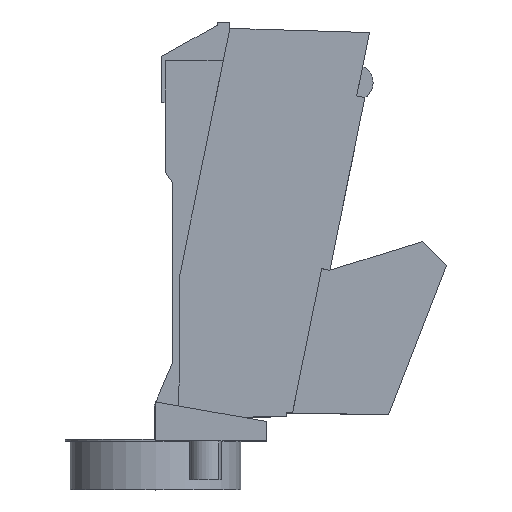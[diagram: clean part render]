
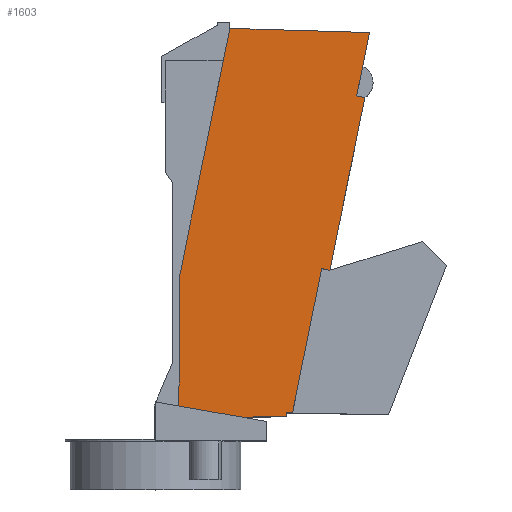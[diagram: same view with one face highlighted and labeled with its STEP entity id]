
A CAD part, top view. The second image highlights one B-rep face of the part: STEP entity #1603.
In plain terms, the highlighted planar face has unit normal (0, 0, 1).
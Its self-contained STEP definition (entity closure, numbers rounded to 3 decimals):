
#5 = LINE ( 'NONE', #997, #1831 ) ;
#12 = CARTESIAN_POINT ( 'NONE',  ( 7.215, -38.5, 12.1 ) ) ;
#21 = EDGE_CURVE ( 'NONE', #1769, #1306, #41, .T. ) ;
#28 = DIRECTION ( 'NONE',  ( 0., 0., -1. ) ) ;
#36 = EDGE_CURVE ( 'NONE', #1349, #164, #787, .T. ) ;
#41 = LINE ( 'NONE', #475, #1864 ) ;
#64 = VERTEX_POINT ( 'NONE', #987 ) ;
#110 = EDGE_CURVE ( 'NONE', #1194, #1349, #1613, .T. ) ;
#131 = CARTESIAN_POINT ( 'NONE',  ( 46.47, 45.41, 12.1 ) ) ;
#164 = VERTEX_POINT ( 'NONE', #1422 ) ;
#167 = EDGE_CURVE ( 'NONE', #1760, #1689, #5, .T. ) ;
#179 = EDGE_CURVE ( 'NONE', #164, #1910, #1973, .T. ) ;
#233 = ORIENTED_EDGE ( 'NONE', *, *, #21, .T. ) ;
#258 = DIRECTION ( 'NONE',  ( -0.199, -0.98, 0. ) ) ;
#275 = PLANE ( 'NONE',  #1478 ) ;
#280 = VECTOR ( 'NONE', #1745, 1000. ) ;
#298 = LINE ( 'NONE', #12, #1222 ) ;
#302 = EDGE_CURVE ( 'NONE', #64, #1760, #703, .T. ) ;
#342 = AXIS2_PLACEMENT_3D ( 'NONE', #1443, #28, #648 ) ;
#354 = VERTEX_POINT ( 'NONE', #1990 ) ;
#428 = VERTEX_POINT ( 'NONE', #1080 ) ;
#447 = VECTOR ( 'NONE', #507, 1000. ) ;
#475 = CARTESIAN_POINT ( 'NONE',  ( 0.838, 4.193, 12.1 ) ) ;
#494 = DIRECTION ( 'NONE',  ( 1., 0., 0. ) ) ;
#507 = DIRECTION ( 'NONE',  ( -1., 0.03, 0. ) ) ;
#516 = VECTOR ( 'NONE', #694, 1000. ) ;
#523 = ORIENTED_EDGE ( 'NONE', *, *, #1022, .T. ) ;
#528 = EDGE_CURVE ( 'NONE', #1910, #428, #298, .T. ) ;
#562 = CARTESIAN_POINT ( 'NONE',  ( 43.828, 32.389, 12.1 ) ) ;
#572 = CIRCLE ( 'NONE', #342, 3. ) ;
#641 = CARTESIAN_POINT ( 'NONE',  ( 38.299, -3.408, 12.1 ) ) ;
#644 = CARTESIAN_POINT ( 'NONE',  ( 29.38, -32.715, 12.1 ) ) ;
#648 = DIRECTION ( 'NONE',  ( 1., 0., 0. ) ) ;
#692 = CARTESIAN_POINT ( 'NONE',  ( 29.38, -33.48, 12.1 ) ) ;
#694 = DIRECTION ( 'NONE',  ( -0.199, -0.98, 0. ) ) ;
#703 = LINE ( 'NONE', #1390, #1452 ) ;
#704 = ORIENTED_EDGE ( 'NONE', *, *, #36, .T. ) ;
#787 = LINE ( 'NONE', #959, #447 ) ;
#815 = LINE ( 'NONE', #1637, #1899 ) ;
#822 = CARTESIAN_POINT ( 'NONE',  ( 17.765, 46.272, 12.1 ) ) ;
#839 = LINE ( 'NONE', #1776, #1375 ) ;
#857 = CARTESIAN_POINT ( 'NONE',  ( 38.299, -3.408, 12.1 ) ) ;
#870 = EDGE_CURVE ( 'NONE', #1689, #1917, #1395, .T. ) ;
#902 = CARTESIAN_POINT ( 'NONE',  ( 20.368, -36.58, 12.1 ) ) ;
#916 = ORIENTED_EDGE ( 'NONE', *, *, #110, .T. ) ;
#959 = CARTESIAN_POINT ( 'NONE',  ( 17.765, 46.272, 12.1 ) ) ;
#986 = DIRECTION ( 'NONE',  ( 0., 0., 1. ) ) ;
#987 = CARTESIAN_POINT ( 'NONE',  ( 20.335, -33.58, 12.1 ) ) ;
#996 = ORIENTED_EDGE ( 'NONE', *, *, #302, .T. ) ;
#997 = CARTESIAN_POINT ( 'NONE',  ( 29.38, -33.48, 12.1 ) ) ;
#998 = VERTEX_POINT ( 'NONE', #1137 ) ;
#1018 = EDGE_CURVE ( 'NONE', #1194, #998, #839, .T. ) ;
#1022 = EDGE_CURVE ( 'NONE', #1917, #1769, #815, .T. ) ;
#1040 = VECTOR ( 'NONE', #1587, 1000. ) ;
#1045 = VECTOR ( 'NONE', #1749, 1000. ) ;
#1053 = ORIENTED_EDGE ( 'NONE', *, *, #528, .T. ) ;
#1061 = DIRECTION ( 'NONE',  ( 1., 0.011, 0. ) ) ;
#1080 = CARTESIAN_POINT ( 'NONE',  ( 7.279, -31.331, 12.1 ) ) ;
#1137 = CARTESIAN_POINT ( 'NONE',  ( 45.494, 32.051, 12.1 ) ) ;
#1161 = ORIENTED_EDGE ( 'NONE', *, *, #1619, .T. ) ;
#1172 = EDGE_CURVE ( 'NONE', #998, #1306, #1986, .T. ) ;
#1194 = VERTEX_POINT ( 'NONE', #562 ) ;
#1197 = ORIENTED_EDGE ( 'NONE', *, *, #167, .T. ) ;
#1222 = VECTOR ( 'NONE', #1566, 1000. ) ;
#1269 = DIRECTION ( 'NONE',  ( 0.98, -0.199, 0. ) ) ;
#1306 = VERTEX_POINT ( 'NONE', #641 ) ;
#1308 = CARTESIAN_POINT ( 'NONE',  ( 36.633, -3.07, 12.1 ) ) ;
#1334 = EDGE_LOOP ( 'NONE', ( #1053, #1161, #1730, #996, #1197, #1600, #523, #233, #1950, #1370, #916, #704, #1433 ) ) ;
#1349 = VERTEX_POINT ( 'NONE', #131 ) ;
#1370 = ORIENTED_EDGE ( 'NONE', *, *, #1018, .F. ) ;
#1375 = VECTOR ( 'NONE', #1620, 1000. ) ;
#1390 = CARTESIAN_POINT ( 'NONE',  ( 20.335, -33.58, 12.1 ) ) ;
#1395 = LINE ( 'NONE', #644, #280 ) ;
#1422 = CARTESIAN_POINT ( 'NONE',  ( 17.765, 46.272, 12.1 ) ) ;
#1433 = ORIENTED_EDGE ( 'NONE', *, *, #179, .T. ) ;
#1443 = CARTESIAN_POINT ( 'NONE',  ( 20.368, -36.58, 12.1 ) ) ;
#1452 = VECTOR ( 'NONE', #1061, 1000. ) ;
#1454 = DIRECTION ( 'NONE',  ( 0.199, 0.98, 0. ) ) ;
#1478 = AXIS2_PLACEMENT_3D ( 'NONE', #902, #986, #494 ) ;
#1501 = DIRECTION ( 'NONE',  ( 0., 1., 0. ) ) ;
#1545 = CARTESIAN_POINT ( 'NONE',  ( 7.52, -4.22, 12.1 ) ) ;
#1566 = DIRECTION ( 'NONE',  ( -0.009, -1., 0. ) ) ;
#1587 = DIRECTION ( 'NONE',  ( 0.985, -0.174, 0. ) ) ;
#1598 = CARTESIAN_POINT ( 'NONE',  ( 20.871, -33.728, 12.1 ) ) ;
#1600 = ORIENTED_EDGE ( 'NONE', *, *, #870, .T. ) ;
#1603 = ADVANCED_FACE ( 'NONE', ( #1696 ), #275, .T. ) ;
#1613 = LINE ( 'NONE', #1928, #1045 ) ;
#1619 = EDGE_CURVE ( 'NONE', #428, #354, #1727, .T. ) ;
#1620 = DIRECTION ( 'NONE',  ( 0.98, -0.199, 0. ) ) ;
#1637 = CARTESIAN_POINT ( 'NONE',  ( 45.06, 38.462, 12.1 ) ) ;
#1672 = VECTOR ( 'NONE', #258, 1000. ) ;
#1689 = VERTEX_POINT ( 'NONE', #1748 ) ;
#1696 = FACE_OUTER_BOUND ( 'NONE', #1334, .T. ) ;
#1699 = EDGE_CURVE ( 'NONE', #354, #64, #572, .T. ) ;
#1727 = LINE ( 'NONE', #1598, #1040 ) ;
#1730 = ORIENTED_EDGE ( 'NONE', *, *, #1699, .T. ) ;
#1745 = DIRECTION ( 'NONE',  ( 1., -0.017, 0. ) ) ;
#1748 = CARTESIAN_POINT ( 'NONE',  ( 29.38, -32.715, 12.1 ) ) ;
#1749 = DIRECTION ( 'NONE',  ( 0.199, 0.98, 0. ) ) ;
#1760 = VERTEX_POINT ( 'NONE', #692 ) ;
#1769 = VERTEX_POINT ( 'NONE', #1308 ) ;
#1776 = CARTESIAN_POINT ( 'NONE',  ( 8.032, 39.652, 12.1 ) ) ;
#1831 = VECTOR ( 'NONE', #1501, 1000. ) ;
#1864 = VECTOR ( 'NONE', #1269, 1000. ) ;
#1899 = VECTOR ( 'NONE', #1454, 1000. ) ;
#1910 = VERTEX_POINT ( 'NONE', #1545 ) ;
#1917 = VERTEX_POINT ( 'NONE', #1989 ) ;
#1928 = CARTESIAN_POINT ( 'NONE',  ( 45.06, 38.462, 12.1 ) ) ;
#1950 = ORIENTED_EDGE ( 'NONE', *, *, #1172, .F. ) ;
#1973 = LINE ( 'NONE', #822, #516 ) ;
#1986 = LINE ( 'NONE', #857, #1672 ) ;
#1989 = CARTESIAN_POINT ( 'NONE',  ( 30.613, -32.737, 12.1 ) ) ;
#1990 = CARTESIAN_POINT ( 'NONE',  ( 20.1, -33.592, 12.1 ) ) ;
